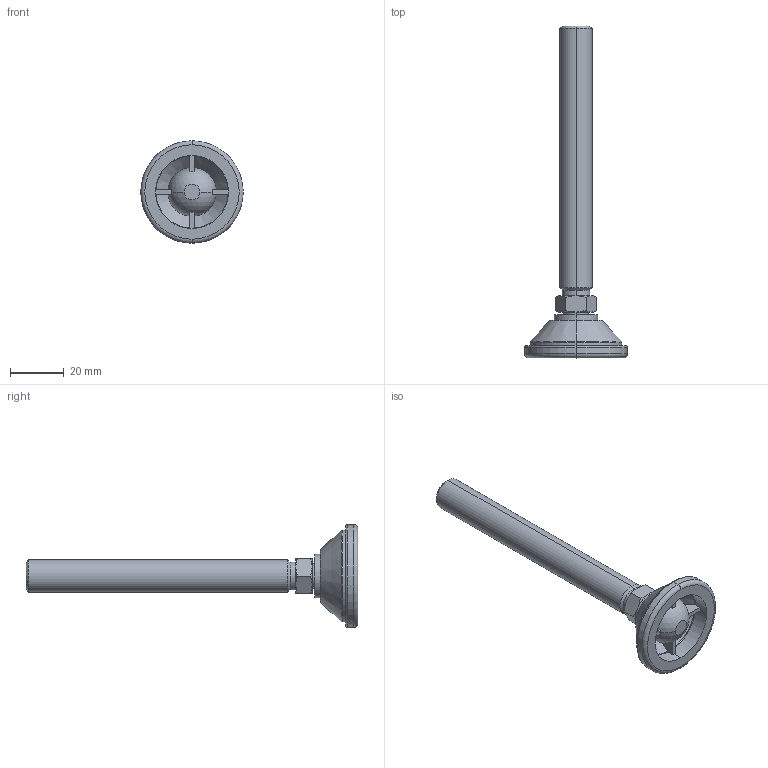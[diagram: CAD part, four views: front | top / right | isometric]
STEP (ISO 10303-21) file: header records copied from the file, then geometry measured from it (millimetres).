
FILE_DESCRIPTION (( 'STEP AP203' ), '1' );
FILE_NAME ('3472.W124.step', '2009-10-21T17:00:19', ( 'Wixroyd' ), ( 'Wixroyd' ), 'SwSTEP 2.0', 'SolidWorks 2009', '' );
FILE_SCHEMA (( 'CONFIG_CONTROL_DESIGN' ));
Length unit declared in the file: millimetre
Products named in the file (3): Part2_3472W124; Part1_3472W124; 3472.W124
Assembly tree (2 placements, depth 2):
  3472.W124
    Part2_3472W124
    Part1_3472W124
Bounding box: 38 x 123 x 38 mm (x, y, z)
Volume: 20227 mm3; surface area: 9786.9 mm2
Topology: 2 solids, 2 shells, 83 faces, 202 edges, 126 vertices
Faces by surface type: plane 27, cone 22, cylinder 16, torus 12, sphere 6
Entity records: 2825 total; most frequent: CARTESIAN_POINT 610, DIRECTION 438, ORIENTED_EDGE 386, AXIS2_PLACEMENT_3D 197, EDGE_CURVE 193, VERTEX_POINT 121, CIRCLE 109, EDGE_LOOP 90
